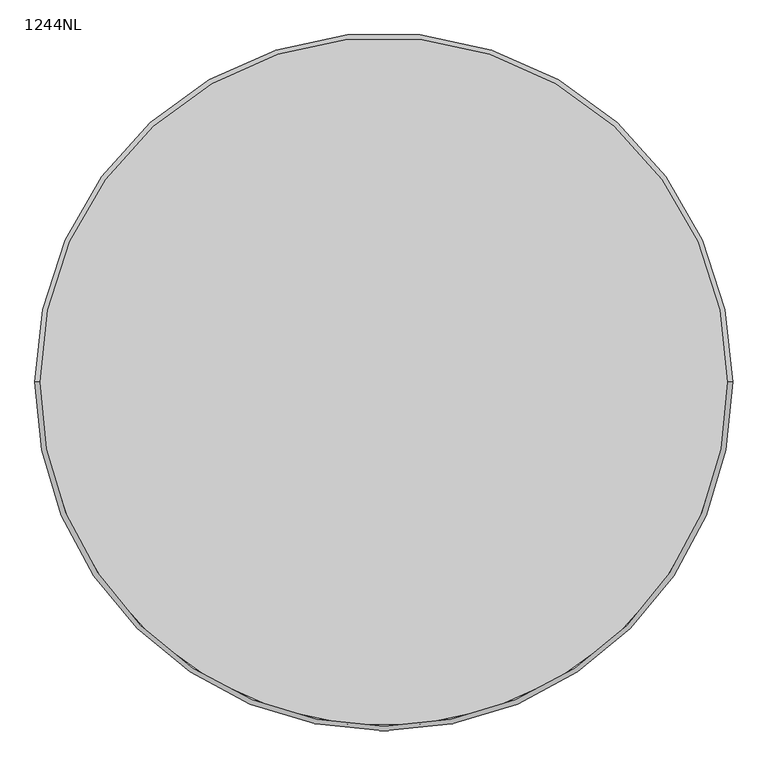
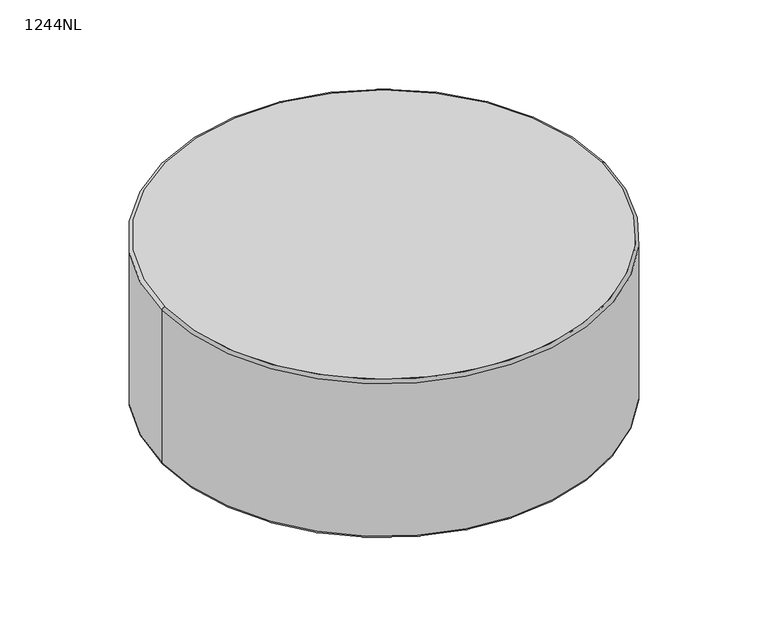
"""IFC4 building model written with IfcOpenShell, lengths in millimetres: furniture geometry, Laguna-Round_Ottomans-No_Legs-ERG : 1244NL."""

from ifc_helpers import new_model, si_unit, point, frame, origin, place, context, project, spatial, circle_curve, ellipse_curve, trimmed, source, transform, mapped, element, save
from ifc_brep_helpers import plane_surface, cylinder_surface, revolved_surface, advanced_brep


def furniture_1244nl_43deeb9b(model_context):
    return source(origin(), model_context, "Body", "AdvancedBrep", [
        advanced_brep(
        [(-4167.4421763, 1234.1558502, 10.16), (-4171.6852245, 1234.1558502, 10.16), (-4163.1991282, 1234.1558502, 10.16), (-4153.3638229, 1234.1558502, 0.0), (-4181.5205297, 1234.1558502, 0.0), (-4167.4421763, 1234.1558502, 0.0), (-4153.3638229, 1234.1558502, 3.9615026), (-4181.5205297, 1234.1558502, 3.9615026), (-4163.1991282, 1234.1558502, 3.9615026), (-4171.6852245, 1234.1558502, 3.9615026)],
        [
            (0, 1),
            (1, 2, circle_curve(frame((-4167.4421763, 1234.1558502, 10.16), z_axis=(0.0, 0.0, 1.0), x_axis=(-1.0, 0.0, 0.0)), 4.2430482)),
            (2, 0),
            (2, 1, circle_curve(frame((-4167.4421763, 1234.1558502, 10.16), z_axis=(0.0, 0.0, 1.0), x_axis=(-1.0, 0.0, 0.0)), 4.2430482)),
            (3, 4, circle_curve(frame((-4167.4421763, 1234.1558502, 0.0), z_axis=(0.0, 0.0, -1.0), x_axis=(-1.0, 0.0, 0.0)), 14.0783534)),
            (4, 5),
            (5, 3),
            (4, 3, circle_curve(frame((-4167.4421763, 1234.1558502, 0.0), z_axis=(0.0, 0.0, -1.0), x_axis=(-1.0, 0.0, 0.0)), 14.0783534)),
            (6, 7, circle_curve(frame((-4167.4421763, 1234.1558502, 3.9615026), z_axis=(0.0, 0.0, -1.0), x_axis=(-1.0, 0.0, 0.0)), 14.0783534)),
            (7, 4),
            (3, 6),
            (7, 6, circle_curve(frame((-4167.4421763, 1234.1558502, 3.9615026), z_axis=(0.0, 0.0, -1.0), x_axis=(-1.0, 0.0, 0.0)), 14.0783534)),
            (8, 9, circle_curve(frame((-4167.4421763, 1234.1558502, 3.9615026), z_axis=(0.0, 0.0, -1.0), x_axis=(-1.0, 0.0, 0.0)), 4.2430482)),
            (9, 7),
            (6, 8),
            (9, 8, circle_curve(frame((-4167.4421763, 1234.1558502, 3.9615026), z_axis=(0.0, 0.0, -1.0), x_axis=(-1.0, 0.0, 0.0)), 4.2430482)),
            (1, 9),
            (8, 2),
        ],
        [
            plane_surface(frame((-4167.4421763, 1234.1558502, 10.16), z_axis=(0.0, 0.0, 1.0), x_axis=(-1.0, 0.0, 0.0))),
            plane_surface(frame((-4167.4421763, 1234.1558502, 0.0), z_axis=(0.0, 0.0, -1.0), x_axis=(-1.0, 0.0, 0.0))),
            cylinder_surface(frame((-4167.4421763, 1234.1558502, 80.01), z_axis=(0.0, 0.0, 1.0), x_axis=(-1.0, 0.0, 0.0)), 14.0783534),
            plane_surface(frame((-4167.4421763, 1234.1558502, 3.9615026), z_axis=(0.0, 0.0, 1.0), x_axis=(-1.0, 0.0, 0.0))),
            cylinder_surface(frame((-4167.4421763, 1234.1558502, 80.01), z_axis=(0.0, 0.0, 1.0), x_axis=(-1.0, 0.0, 0.0)), 4.2430482),
        ],
        [
            (0, [[1, 2, 3]]),
            (0, [[-3, 4, -1]]),
            (1, [[5, 6, 7]]),
            (1, [[8, -7, -6]]),
            (2, [[9, 10, -5, 11]]),
            (2, [[12, -11, -8, -10]]),
            (3, [[13, 14, -9, 15]]),
            (3, [[16, -15, -12, -14]]),
            (4, [[-2, 17, -13, 18]]),
            (4, [[-4, -18, -16, -17]]),
        ],
    ),
        advanced_brep(
        [(-5162.2852245, 1234.1558502, 3.9615026), (-5153.7991282, 1234.1558502, 3.9615026), (-5153.7991282, 1234.1558502, 10.16), (-5162.2852245, 1234.1558502, 10.16), (-5172.1205297, 1234.1558502, 3.9615026), (-5143.9638229, 1234.1558502, 3.9615026), (-5172.1205297, 1234.1558502, 0.0), (-5143.9638229, 1234.1558502, 0.0), (-5158.0421763, 1234.1558502, 0.0), (-5158.0421763, 1234.1558502, 10.16)],
        [
            (0, 1, circle_curve(frame((-5158.0421763, 1234.1558502, 3.9615026), z_axis=(0.0, 0.0, 1.0), x_axis=(1.0, 0.0, 0.0)), 4.2430482)),
            (1, 2),
            (2, 3, circle_curve(frame((-5158.0421763, 1234.1558502, 10.16), z_axis=(0.0, 0.0, -1.0), x_axis=(1.0, 0.0, 0.0)), 4.2430482)),
            (3, 0),
            (1, 0, circle_curve(frame((-5158.0421763, 1234.1558502, 3.9615026), z_axis=(0.0, 0.0, 1.0), x_axis=(1.0, 0.0, 0.0)), 4.2430482)),
            (3, 2, circle_curve(frame((-5158.0421763, 1234.1558502, 10.16), z_axis=(0.0, 0.0, -1.0), x_axis=(1.0, 0.0, 0.0)), 4.2430482)),
            (4, 5, circle_curve(frame((-5158.0421763, 1234.1558502, 3.9615026), z_axis=(0.0, 0.0, 1.0), x_axis=(1.0, 0.0, 0.0)), 14.0783534)),
            (5, 1),
            (0, 4),
            (5, 4, circle_curve(frame((-5158.0421763, 1234.1558502, 3.9615026), z_axis=(0.0, 0.0, 1.0), x_axis=(1.0, 0.0, 0.0)), 14.0783534)),
            (6, 7, circle_curve(frame((-5158.0421763, 1234.1558502, 0.0), z_axis=(0.0, 0.0, 1.0), x_axis=(1.0, 0.0, 0.0)), 14.0783534)),
            (7, 5),
            (4, 6),
            (7, 6, circle_curve(frame((-5158.0421763, 1234.1558502, 0.0), z_axis=(0.0, 0.0, 1.0), x_axis=(1.0, 0.0, 0.0)), 14.0783534)),
            (8, 7),
            (6, 8),
            (2, 9),
            (9, 3),
        ],
        [
            cylinder_surface(frame((-5158.0421763, 1234.1558502, 29.21), z_axis=(0.0, 0.0, -1.0), x_axis=(1.0, 0.0, 0.0)), 4.2430482),
            plane_surface(frame((-5158.0421763, 1234.1558502, 3.9615026), z_axis=(0.0, 0.0, 1.0), x_axis=(1.0, 0.0, 0.0))),
            cylinder_surface(frame((-5158.0421763, 1234.1558502, 29.21), z_axis=(0.0, 0.0, -1.0), x_axis=(1.0, 0.0, 0.0)), 14.0783534),
            plane_surface(frame((-5158.0421763, 1234.1558502, 0.0), z_axis=(0.0, 0.0, -1.0), x_axis=(1.0, 0.0, 0.0))),
            plane_surface(frame((-5158.0421763, 1234.1558502, 10.16), z_axis=(0.0, 0.0, 1.0), x_axis=(1.0, 0.0, 0.0))),
        ],
        [
            (0, [[1, 2, 3, 4]]),
            (0, [[5, -4, 6, -2]]),
            (1, [[7, 8, -1, 9]]),
            (1, [[10, -9, -5, -8]]),
            (2, [[11, 12, -7, 13]]),
            (2, [[14, -13, -10, -12]]),
            (3, [[15, -11, 16]]),
            (3, [[-16, -14, -15]]),
            (4, [[-3, 17, 18]]),
            (4, [[-6, -18, -17]]),
        ],
    ),
        advanced_brep(
        [(-4662.7421763, 743.0988983, 3.9615026), (-4662.7421763, 734.612802, 3.9615026), (-4662.7421763, 734.612802, 10.16), (-4662.7421763, 743.0988983, 10.16), (-4662.7421763, 752.9342036, 3.9615026), (-4662.7421763, 724.7774967, 3.9615026), (-4662.7421763, 752.9342036, 0.0), (-4662.7421763, 724.7774967, 0.0), (-4662.7421763, 738.8558502, 0.0), (-4662.7421763, 738.8558502, 10.16)],
        [
            (0, 1, circle_curve(frame((-4662.7421763, 738.8558502, 3.9615026), z_axis=(0.0, 0.0, 1.0), x_axis=(0.0, -1.0, 0.0)), 4.2430482)),
            (1, 2),
            (2, 3, circle_curve(frame((-4662.7421763, 738.8558502, 10.16), z_axis=(0.0, 0.0, -1.0), x_axis=(0.0, -1.0, 0.0)), 4.2430482)),
            (3, 0),
            (1, 0, circle_curve(frame((-4662.7421763, 738.8558502, 3.9615026), z_axis=(0.0, 0.0, 1.0), x_axis=(0.0, -1.0, 0.0)), 4.2430482)),
            (3, 2, circle_curve(frame((-4662.7421763, 738.8558502, 10.16), z_axis=(0.0, 0.0, -1.0), x_axis=(0.0, -1.0, 0.0)), 4.2430482)),
            (4, 5, circle_curve(frame((-4662.7421763, 738.8558502, 3.9615026), z_axis=(0.0, 0.0, 1.0), x_axis=(0.0, -1.0, 0.0)), 14.0783534)),
            (5, 1),
            (0, 4),
            (5, 4, circle_curve(frame((-4662.7421763, 738.8558502, 3.9615026), z_axis=(0.0, 0.0, 1.0), x_axis=(0.0, -1.0, 0.0)), 14.0783534)),
            (6, 7, circle_curve(frame((-4662.7421763, 738.8558502, 0.0), z_axis=(0.0, 0.0, 1.0), x_axis=(0.0, -1.0, 0.0)), 14.0783534)),
            (7, 5),
            (4, 6),
            (7, 6, circle_curve(frame((-4662.7421763, 738.8558502, 0.0), z_axis=(0.0, 0.0, 1.0), x_axis=(0.0, -1.0, 0.0)), 14.0783534)),
            (8, 7),
            (6, 8),
            (2, 9),
            (9, 3),
        ],
        [
            cylinder_surface(frame((-4662.7421763, 738.8558502, 39.775957), z_axis=(0.0, 0.0, -1.0), x_axis=(0.0, -1.0, 0.0)), 4.2430482),
            plane_surface(frame((-4662.7421763, 738.8558502, 3.9615026), z_axis=(0.0, 0.0, 1.0), x_axis=(0.0, -1.0, 0.0))),
            cylinder_surface(frame((-4662.7421763, 738.8558502, 39.775957), z_axis=(0.0, 0.0, -1.0), x_axis=(0.0, -1.0, 0.0)), 14.0783534),
            plane_surface(frame((-4662.7421763, 738.8558502, 0.0), z_axis=(0.0, 0.0, -1.0), x_axis=(0.0, -1.0, 0.0))),
            plane_surface(frame((-4662.7421763, 738.8558502, 10.16), z_axis=(0.0, 0.0, 1.0), x_axis=(0.0, -1.0, 0.0))),
        ],
        [
            (0, [[1, 2, 3, 4]]),
            (0, [[5, -4, 6, -2]]),
            (1, [[7, 8, -1, 9]]),
            (1, [[10, -9, -5, -8]]),
            (2, [[11, 12, -7, 13]]),
            (2, [[14, -13, -10, -12]]),
            (3, [[15, -11, 16]]),
            (3, [[-16, -14, -15]]),
            (4, [[-3, 17, 18]]),
            (4, [[-6, -18, -17]]),
        ],
    ),
        advanced_brep(
        [(-4662.7421763, 1733.6988983, 3.9615026), (-4662.7421763, 1725.212802, 3.9615026), (-4662.7421763, 1725.212802, 10.16), (-4662.7421763, 1733.6988983, 10.16), (-4662.7421763, 1743.5342036, 3.9615026), (-4662.7421763, 1715.3774967, 3.9615026), (-4662.7421763, 1743.5342036, 0.0), (-4662.7421763, 1715.3774967, 0.0), (-4662.7421763, 1729.4558502, 0.0), (-4662.7421763, 1729.4558502, 10.16)],
        [
            (0, 1, circle_curve(frame((-4662.7421763, 1729.4558502, 3.9615026), z_axis=(0.0, 0.0, 1.0), x_axis=(0.0, -1.0, 0.0)), 4.2430482)),
            (1, 2),
            (2, 3, circle_curve(frame((-4662.7421763, 1729.4558502, 10.16), z_axis=(0.0, 0.0, -1.0), x_axis=(0.0, -1.0, 0.0)), 4.2430482)),
            (3, 0),
            (1, 0, circle_curve(frame((-4662.7421763, 1729.4558502, 3.9615026), z_axis=(0.0, 0.0, 1.0), x_axis=(0.0, -1.0, 0.0)), 4.2430482)),
            (3, 2, circle_curve(frame((-4662.7421763, 1729.4558502, 10.16), z_axis=(0.0, 0.0, -1.0), x_axis=(0.0, -1.0, 0.0)), 4.2430482)),
            (4, 5, circle_curve(frame((-4662.7421763, 1729.4558502, 3.9615026), z_axis=(0.0, 0.0, 1.0), x_axis=(0.0, -1.0, 0.0)), 14.0783534)),
            (5, 1),
            (0, 4),
            (5, 4, circle_curve(frame((-4662.7421763, 1729.4558502, 3.9615026), z_axis=(0.0, 0.0, 1.0), x_axis=(0.0, -1.0, 0.0)), 14.0783534)),
            (6, 7, circle_curve(frame((-4662.7421763, 1729.4558502, 0.0), z_axis=(0.0, 0.0, 1.0), x_axis=(0.0, -1.0, 0.0)), 14.0783534)),
            (7, 5),
            (4, 6),
            (7, 6, circle_curve(frame((-4662.7421763, 1729.4558502, 0.0), z_axis=(0.0, 0.0, 1.0), x_axis=(0.0, -1.0, 0.0)), 14.0783534)),
            (8, 7),
            (6, 8),
            (2, 9),
            (9, 3),
        ],
        [
            cylinder_surface(frame((-4662.7421763, 1729.4558502, 48.26), z_axis=(0.0, 0.0, -1.0), x_axis=(0.0, -1.0, 0.0)), 4.2430482),
            plane_surface(frame((-4662.7421763, 1729.4558502, 3.9615026), z_axis=(0.0, 0.0, 1.0), x_axis=(0.0, -1.0, 0.0))),
            cylinder_surface(frame((-4662.7421763, 1729.4558502, 48.26), z_axis=(0.0, 0.0, -1.0), x_axis=(0.0, -1.0, 0.0)), 14.0783534),
            plane_surface(frame((-4662.7421763, 1729.4558502, 0.0), z_axis=(0.0, 0.0, -1.0), x_axis=(0.0, -1.0, 0.0))),
            plane_surface(frame((-4662.7421763, 1729.4558502, 10.16), z_axis=(0.0, 0.0, 1.0), x_axis=(0.0, -1.0, 0.0))),
        ],
        [
            (0, [[1, 2, 3, 4]]),
            (0, [[5, -4, 6, -2]]),
            (1, [[7, 8, -1, 9]]),
            (1, [[10, -9, -5, -8]]),
            (2, [[11, 12, -7, 13]]),
            (2, [[14, -13, -10, -12]]),
            (3, [[15, -11, 16]]),
            (3, [[-16, -14, -15]]),
            (4, [[-3, 17, 18]]),
            (4, [[-6, -18, -17]]),
        ],
    ),
        advanced_brep(
        [(-4135.681116, 1234.1558502, 399.8831003), (-5189.8032366, 1234.1558502, 399.8831003), (-5189.8032366, 1234.1558502, 16.6768997), (-4135.681116, 1234.1558502, 16.6768997), (-4142.6439761, 1234.1558502, 406.4), (-5182.8403765, 1234.1558502, 406.4), (-5182.8403765, 1234.1558502, 10.16), (-4142.6439761, 1234.1558502, 10.16)],
        [
            (0, 1, circle_curve(frame((-4662.7421763, 1234.1558502, 399.8831003), z_axis=(0.0, 0.0, -1.0), x_axis=(-1.0, 0.0, 0.0)), 527.0610603)),
            (1, 2, circle_curve(frame((-2297.2401763, 1234.1558502, 208.28), z_axis=(0.0, -1.0, 0.0), x_axis=(1.0, 0.0, 0.0)), 2898.902)),
            (2, 3, circle_curve(frame((-4662.7421763, 1234.1558502, 16.6768997), z_axis=(0.0, 0.0, 1.0), x_axis=(-1.0, 0.0, 0.0)), 527.0610603)),
            (3, 0, circle_curve(frame((-7028.2441763, 1234.1558502, 208.28), z_axis=(0.0, -1.0, 0.0), x_axis=(-1.0, 0.0, 0.0)), 2898.902)),
            (0, 4, circle_curve(frame((-4142.6439761, 1234.1558502, 399.4218811), z_axis=(0.0, -1.0, 0.0), x_axis=(-1.0, 0.0, 0.0)), 6.9781189)),
            (4, 5, circle_curve(frame((-4662.7421763, 1234.1558502, 406.4), z_axis=(0.0, 0.0, -1.0), x_axis=(-1.0, 0.0, 0.0)), 520.0982002)),
            (5, 1, circle_curve(frame((-5182.8403765, 1234.1558502, 399.4218811), z_axis=(0.0, -1.0, 0.0), x_axis=(1.0, 0.0, 0.0)), 6.9781189)),
            (2, 6, circle_curve(frame((-5182.8403765, 1234.1558502, 17.1381189), z_axis=(0.0, -1.0, 0.0), x_axis=(1.0, 0.0, 0.0)), 6.9781189)),
            (6, 7, circle_curve(frame((-4662.7421763, 1234.1558502, 10.16), z_axis=(0.0, 0.0, 1.0), x_axis=(-1.0, 0.0, 0.0)), 520.0982002)),
            (7, 3, circle_curve(frame((-4142.6439761, 1234.1558502, 17.1381189), z_axis=(0.0, -1.0, 0.0), x_axis=(-1.0, 0.0, 0.0)), 6.9781189)),
            (1, 0, circle_curve(frame((-4662.7421763, 1234.1558502, 399.8831003), z_axis=(0.0, 0.0, -1.0), x_axis=(1.0, 0.0, 0.0)), 527.0610603)),
            (3, 2, circle_curve(frame((-4662.7421763, 1234.1558502, 16.6768997), z_axis=(0.0, 0.0, 1.0), x_axis=(1.0, 0.0, 0.0)), 527.0610603)),
            (5, 4, circle_curve(frame((-4662.7421763, 1234.1558502, 406.4), z_axis=(0.0, 0.0, -1.0), x_axis=(1.0, 0.0, 0.0)), 520.0982002)),
            (7, 6, circle_curve(frame((-4662.7421763, 1234.1558502, 10.16), z_axis=(0.0, 0.0, 1.0), x_axis=(1.0, 0.0, 0.0)), 520.0982002)),
        ],
        [
            revolved_surface(trimmed(ellipse_curve(frame((-2297.2401763, 1234.1558502, 208.28), z_axis=(0.0, 1.0, 0.0), x_axis=(1.0, 0.0, 0.0)), 2898.902, 2898.902), [point((-5189.8032366, 1234.1558502, 16.6768997))], [point((-5189.8032366, 1234.1558502, 399.8831003))], True, "CARTESIAN"), (-4662.7421763, 1234.1558502, 0.0), (0.0, 0.0, 1.0)),
            revolved_surface(trimmed(ellipse_curve(frame((-5182.8403765, 1234.1558502, 399.4218811), z_axis=(0.0, 1.0, 0.0), x_axis=(1.0, 0.0, 0.0)), 6.9781189, 6.9781189), [point((-5189.8032366, 1234.1558502, 399.8831003))], [point((-5182.8403765, 1234.1558502, 406.4))], True, "CARTESIAN"), (-4662.7421763, 1234.1558502, 0.0), (0.0, 0.0, 1.0)),
            revolved_surface(trimmed(ellipse_curve(frame((-5182.8403765, 1234.1558502, 17.1381189), z_axis=(0.0, 1.0, 0.0), x_axis=(1.0, 0.0, 0.0)), 6.9781189, 6.9781189), [point((-5182.8403765, 1234.1558502, 10.16))], [point((-5189.8032366, 1234.1558502, 16.6768997))], True, "CARTESIAN"), (-4662.7421763, 1234.1558502, 0.0), (0.0, 0.0, 1.0)),
            revolved_surface(trimmed(ellipse_curve(frame((-7028.2441763, 1234.1558502, 208.28), z_axis=(0.0, -1.0, 0.0), x_axis=(-1.0, 0.0, 0.0)), 2898.902, 2898.902), [point((-4135.681116, 1234.1558502, 16.6768997))], [point((-4135.681116, 1234.1558502, 399.8831003))], True, "CARTESIAN"), (-4662.7421763, 1234.1558502, 0.0), (0.0, 0.0, 1.0)),
            revolved_surface(trimmed(ellipse_curve(frame((-4142.6439761, 1234.1558502, 399.4218811), z_axis=(0.0, -1.0, 0.0), x_axis=(-1.0, 0.0, 0.0)), 6.9781189, 6.9781189), [point((-4135.681116, 1234.1558502, 399.8831003))], [point((-4142.6439761, 1234.1558502, 406.4))], True, "CARTESIAN"), (-4662.7421763, 1234.1558502, 0.0), (0.0, 0.0, 1.0)),
            revolved_surface(trimmed(ellipse_curve(frame((-4142.6439761, 1234.1558502, 17.1381189), z_axis=(0.0, -1.0, 0.0), x_axis=(-1.0, 0.0, 0.0)), 6.9781189, 6.9781189), [point((-4142.6439761, 1234.1558502, 10.16))], [point((-4135.681116, 1234.1558502, 16.6768997))], True, "CARTESIAN"), (-4662.7421763, 1234.1558502, 0.0), (0.0, 0.0, 1.0)),
            plane_surface(frame((-4142.6439761, 1234.1558502, 406.4), z_axis=(0.0, 0.0, 1.0), x_axis=(0.0, 1.0, 0.0))),
            plane_surface(frame((-4142.6439761, 1234.1558502, 10.16), z_axis=(0.0, 0.0, -1.0), x_axis=(0.0, -1.0, 0.0))),
        ],
        [
            (0, [[1, 2, 3, 4]]),
            (1, [[-1, 5, 6, 7]]),
            (2, [[-3, 8, 9, 10]]),
            (3, [[-2, 11, -4, 12]]),
            (4, [[-7, 13, -5, -11]]),
            (5, [[-8, -12, -10, 14]]),
            (6, [[-6, -13]]),
            (7, [[-9, -14]]),
        ],
    ),
    ])


if __name__ == "__main__":
    model = new_model("IFC4")
    model_context = context("Model", 3, world=origin())
    ifc_project = project(units=[si_unit("LENGTHUNIT", "METRE", prefix="MILLI")], contexts=[model_context])
    site = spatial("IfcSite", under=ifc_project)
    building = spatial("IfcBuilding", under=site)
    placement = place(None, origin())
    furniture_1244nl_shape = furniture_1244nl_43deeb9b(model_context)
    element("IfcFurniture", 1, ObjectType="Laguna-Round_Ottomans-No_Legs-ERG : 1244NL", at=placement, inside=building, context=model_context, shape_type="MappedRepresentation", body=[
        mapped(furniture_1244nl_shape, transform((0.0, 0.0, 0.0), x_axis=(1.0, 0.0, 0.0), y_axis=(0.0, 1.0, 0.0), z_axis=(0.0, 0.0, 1.0))),
    ])
    save(model, "model.ifc")
